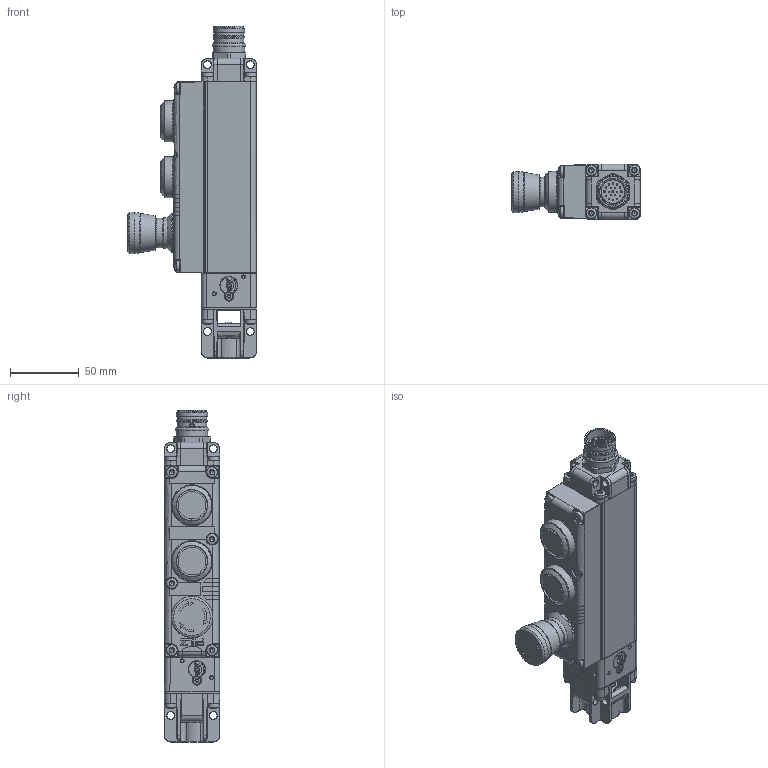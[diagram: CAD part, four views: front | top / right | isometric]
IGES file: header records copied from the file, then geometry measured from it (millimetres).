
Global section: file name: 2036731_A_PSENmg1-A-xxxxx-Rxxx-Ux; native system: Autodesk Inventor 2024; preprocessor: unknown; author: rvet; date: 20240705.143948; units: millimetre
Bounding box: 93.5 x 40 x 240.7 mm (x, y, z)
Volume: 446898.5 mm3; surface area: 65397.7 mm2
Topology: 1 solids, 1 shells, 1954 faces, 5084 edges, 3157 vertices
Faces by surface type: bspline 1954
